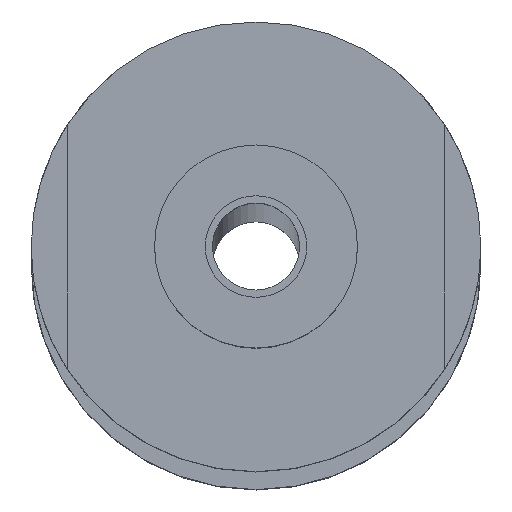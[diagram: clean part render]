
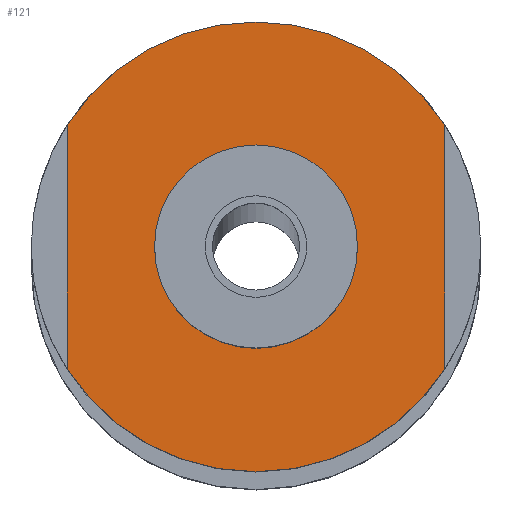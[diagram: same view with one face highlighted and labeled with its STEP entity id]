
A CAD part, top view. The second image highlights one B-rep face of the part: STEP entity #121.
In plain terms, the highlighted planar face has unit normal (0, 0, 1).
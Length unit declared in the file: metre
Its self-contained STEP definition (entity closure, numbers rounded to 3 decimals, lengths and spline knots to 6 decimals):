
#121=ADVANCED_FACE('37:1511',(#238,#239),#240,.T.);
#238=FACE_OUTER_BOUND('',#364,.T.);
#239=FACE_BOUND('',#365,.T.);
#240=PLANE('',#366);
#364=EDGE_LOOP('',(#596,#597,#598,#599,#600,#601));
#365=EDGE_LOOP('',(#602,#603));
#366=AXIS2_PLACEMENT_3D('',#604,#605,#606);
#596=ORIENTED_EDGE('',*,*,#761,.F.);
#597=ORIENTED_EDGE('',*,*,#760,.F.);
#598=ORIENTED_EDGE('',*,*,#756,.F.);
#599=ORIENTED_EDGE('',*,*,#688,.F.);
#600=ORIENTED_EDGE('',*,*,#687,.F.);
#601=ORIENTED_EDGE('',*,*,#751,.T.);
#602=ORIENTED_EDGE('',*,*,#749,.F.);
#603=ORIENTED_EDGE('',*,*,#693,.F.);
#604=CARTESIAN_POINT('',(0.0,0.0,3.085));
#605=DIRECTION('',(0.0,0.0,1.0));
#606=DIRECTION('',(1.0,0.0,0.0));
#687=EDGE_CURVE('37:1561',#812,#814,#815,.F.);
#688=EDGE_CURVE('37:1552',#814,#816,#817,.F.);
#693=EDGE_CURVE('',#822,#825,#826,.T.);
#749=EDGE_CURVE('37:1539',#825,#822,#907,.T.);
#751=EDGE_CURVE('37:3142',#812,#909,#910,.T.);
#756=EDGE_CURVE('37:2641',#816,#917,#918,.F.);
#760=EDGE_CURVE('37:1558',#917,#922,#923,.F.);
#761=EDGE_CURVE('37:1549',#922,#909,#924,.F.);
#812=VERTEX_POINT('',#1001);
#814=VERTEX_POINT('',#1004);
#815=CIRCLE('',#1005,0.0155);
#816=VERTEX_POINT('',#1006);
#817=CIRCLE('',#1007,0.0155);
#822=VERTEX_POINT('',#1013);
#825=VERTEX_POINT('',#1017);
#826=CIRCLE('',#1018,0.007);
#907=CIRCLE('',#1116,0.007);
#909=VERTEX_POINT('',#1118);
#910=LINE('',#1119,#1120);
#917=VERTEX_POINT('',#1130);
#918=LINE('',#1131,#1132);
#922=VERTEX_POINT('',#1137);
#923=CIRCLE('',#1138,0.0155);
#924=CIRCLE('',#1139,0.0155);
#1001=CARTESIAN_POINT('',(-0.013092,0.008536,3.085));
#1004=CARTESIAN_POINT('',(-0.000092,0.015595,3.085));
#1005=AXIS2_PLACEMENT_3D('',#1221,#1222,#1223);
#1006=CARTESIAN_POINT('',(0.012908,0.008536,3.085));
#1007=AXIS2_PLACEMENT_3D('',#1224,#1225,#1226);
#1013=CARTESIAN_POINT('',(0.006908,0.000095,3.085));
#1017=CARTESIAN_POINT('',(-0.007092,0.000095,3.085));
#1018=AXIS2_PLACEMENT_3D('',#1232,#1233,#1234);
#1116=AXIS2_PLACEMENT_3D('',#1318,#1319,#1320);
#1118=CARTESIAN_POINT('',(-0.013092,-0.008346,3.085));
#1119=CARTESIAN_POINT('',(-0.013092,0.000048,3.085));
#1120=VECTOR('',#1321,1.0);
#1130=CARTESIAN_POINT('',(0.012908,-0.008346,3.085));
#1131=CARTESIAN_POINT('',(0.012908,0.000048,3.085));
#1132=VECTOR('',#1325,1.0);
#1137=CARTESIAN_POINT('',(-0.000092,-0.015405,3.085));
#1138=AXIS2_PLACEMENT_3D('',#1330,#1331,#1332);
#1139=AXIS2_PLACEMENT_3D('',#1333,#1334,#1335);
#1221=CARTESIAN_POINT('',(-0.000092,0.000095,3.085));
#1222=DIRECTION('',(0.0,0.0,1.0));
#1223=DIRECTION('',(1.0,0.0,0.0));
#1224=CARTESIAN_POINT('',(-0.000092,0.000095,3.085));
#1225=DIRECTION('',(0.0,0.0,1.0));
#1226=DIRECTION('',(1.0,0.0,0.0));
#1232=CARTESIAN_POINT('',(-0.000092,0.000095,3.085));
#1233=DIRECTION('',(0.0,0.0,1.0));
#1234=DIRECTION('',(1.0,0.0,-0.0));
#1318=CARTESIAN_POINT('',(-0.000092,0.000095,3.085));
#1319=DIRECTION('',(0.0,0.0,1.0));
#1320=DIRECTION('',(1.0,0.0,-0.0));
#1321=DIRECTION('',(0.,-1.0,0.0));
#1325=DIRECTION('',(0.,1.0,0.0));
#1330=CARTESIAN_POINT('',(-0.000092,0.000095,3.085));
#1331=DIRECTION('',(0.0,0.0,1.0));
#1332=DIRECTION('',(1.0,0.0,0.0));
#1333=CARTESIAN_POINT('',(-0.000092,0.000095,3.085));
#1334=DIRECTION('',(0.0,0.0,1.0));
#1335=DIRECTION('',(1.0,0.0,0.0));
